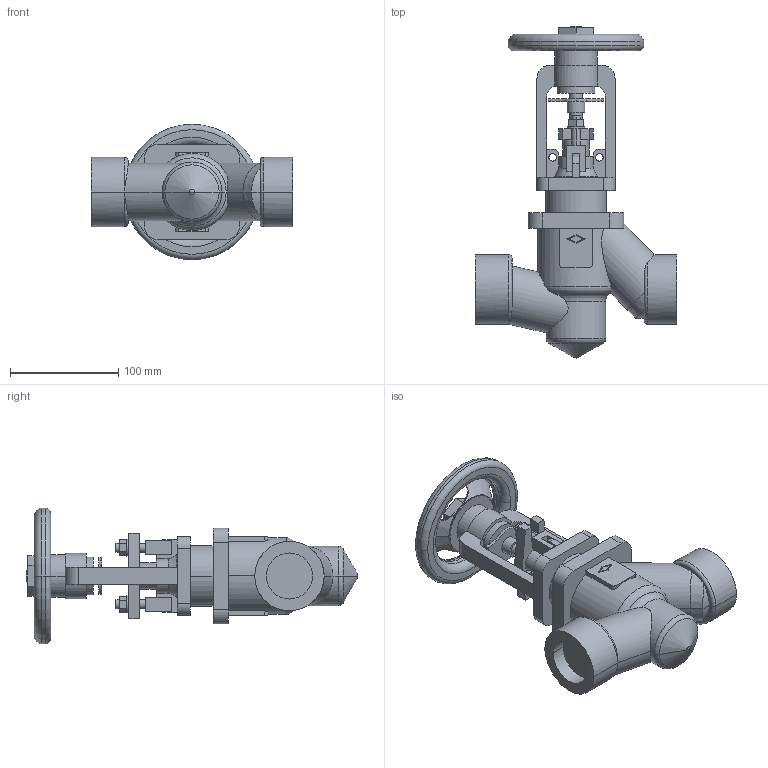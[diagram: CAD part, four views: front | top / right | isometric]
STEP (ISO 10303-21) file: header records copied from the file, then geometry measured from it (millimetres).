
FILE_DESCRIPTION(('OneSpaceDesigner STEP Export'),'2;1');
FILE_NAME('c000004268.stp','2010-05-04T10:46:14',(''),(''),'OneSpace Designer STEP processor for AP214 (Solid Model)','OneSpace Modeling 15.50B 03-Nov-2007 (C) CoCreate Software GmbH','');
FILE_SCHEMA(('AUTOMOTIVE_DESIGN { 1 0 10303 214 1 1 1 1 }'));
Length unit declared in the file: millimetre
Products named in the file (1): 1
Bounding box: 186 x 306.23 x 125 mm (x, y, z)
Volume: 1178566.7 mm3; surface area: 152069.3 mm2
Topology: 1 solids, 1 shells, 282 faces, 755 edges, 493 vertices
Faces by surface type: plane 141, cylinder 99, torus 24, cone 16, sphere 2
Entity records: 11306 total; most frequent: CARTESIAN_POINT 2325, ORIENTED_EDGE 1510, DIRECTION 1268, EDGE_CURVE 755, VERTEX_POINT 493, AXIS2_PLACEMENT_3D 426, VECTOR 416, LINE 416
